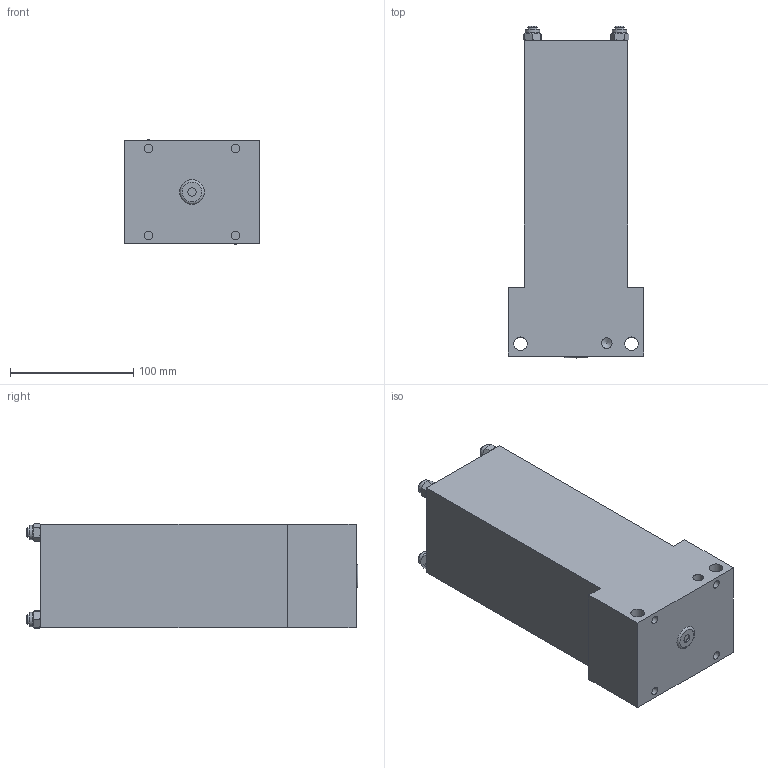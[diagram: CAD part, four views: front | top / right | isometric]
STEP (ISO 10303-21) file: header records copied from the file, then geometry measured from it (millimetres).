
FILE_DESCRIPTION((''),'2;1');
FILE_NAME('C:\VaultWork\Zeichnungen\Maßblätter\Multizylinder\M 75\M75-30\M01785-4-0 Maßblatt Multizylinder M75-5-30.stp','2013-06-17T11:21:19',('Sergeew'),(''),'Autodesk Inventor 2012','Autodesk Inventor 2012','');
FILE_SCHEMA(('AUTOMOTIVE_DESIGN { 1 0 10303 214 1 1 1 1 }'));
Length unit declared in the file: millimetre
Products named in the file (1): M01785-4-0 Maßblatt Multizylinder M75-5-30
Bounding box: 110 x 269.5 x 85.72 mm (x, y, z)
Volume: 1908421.7 mm3; surface area: 121819.4 mm2
Topology: 1 solids, 5 shells, 108 faces, 235 edges, 156 vertices
Faces by surface type: plane 61, cylinder 25, cone 21, torus 1
Full cylindrical faces by diameter (mm): 6.647 x5, 8 x8, 8.566 x2, 9 x4, 11 x2, 11.6 x4
Entity records: 2578 total; most frequent: CARTESIAN_POINT 501, DIRECTION 402, ORIENTED_EDGE 328, EDGE_LOOP 178, AXIS2_PLACEMENT_3D 177, EDGE_CURVE 164, VERTEX_POINT 132, FACE_OUTER_BOUND 108
